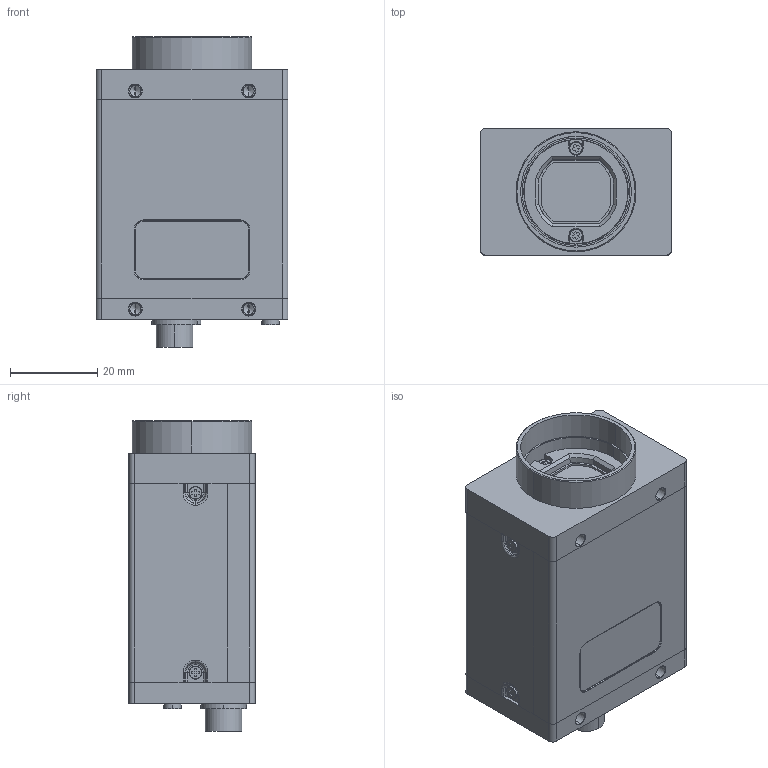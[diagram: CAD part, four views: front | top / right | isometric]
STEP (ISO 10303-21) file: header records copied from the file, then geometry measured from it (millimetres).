
FILE_DESCRIPTION (( 'STEP AP203' ), '1' );
FILE_NAME ('GSR-006-R0.STEP', '2013-12-20T21:35:50', ( 'Gus' ), ( '' ), 'SwSTEP 2.0', 'SolidWorks 2014', '' );
FILE_SCHEMA (( 'CONFIG_CONTROL_DESIGN' ));
Length unit declared in the file: millimetre
Products named in the file (1): GSR-006-R0
Bounding box: 44 x 29 x 71.28 mm (x, y, z)
Volume: 72604.6 mm3; surface area: 13510.3 mm2
Topology: 1 solids, 1 shells, 469 faces, 1151 edges, 714 vertices
Faces by surface type: plane 221, cylinder 137, cone 62, torus 48, sphere 1
Entity records: 13721 total; most frequent: DIRECTION 2474, CARTESIAN_POINT 2374, ORIENTED_EDGE 2264, EDGE_CURVE 1132, AXIS2_PLACEMENT_3D 892, VERTEX_POINT 712, VECTOR 690, LINE 690
